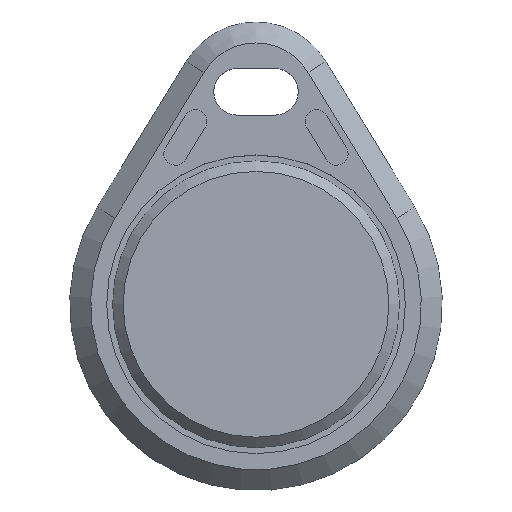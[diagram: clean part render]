
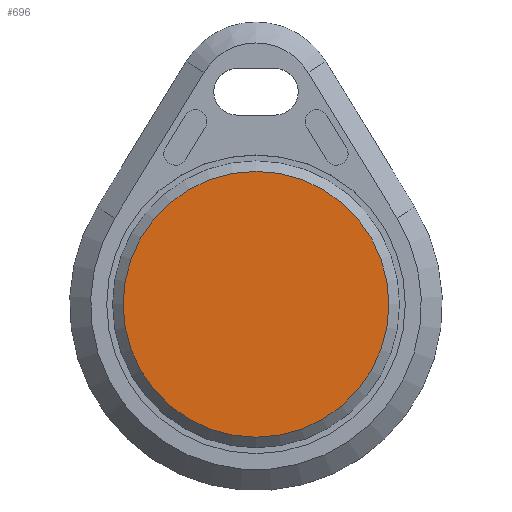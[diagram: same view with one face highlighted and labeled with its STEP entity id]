
A CAD part, top view. The second image highlights one B-rep face of the part: STEP entity #696.
In plain terms, the highlighted planar face has unit normal (0, 0, 1).
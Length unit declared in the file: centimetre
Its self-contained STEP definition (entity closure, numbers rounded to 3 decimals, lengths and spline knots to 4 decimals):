
#273=VERTEX_POINT('',#2454);
#354=EDGE_CURVE('',#273,#273,#1224,.T.);
#498=ORIENTED_EDGE('',*,*,#354,.F.);
#597=EDGE_LOOP('',(#498));
#651=FACE_BOUND('',#597,.T.);
#696=ADVANCED_FACE('',(#651),#1751,.T.);
#1224=CIRCLE('',#1603,1.1415);
#1593=AXIS2_PLACEMENT_3D('',#2423,#2007,$);
#1603=AXIS2_PLACEMENT_3D('',#2453,#2032,#2033);
#1751=PLANE('',#1593);
#2007=DIRECTION('',(0.,0.,1.));
#2032=DIRECTION('',(0.,0.,-1.));
#2033=DIRECTION('',(-1.142,0.,0.));
#2423=CARTESIAN_POINT('',(0.,0.3747,0.45));
#2453=CARTESIAN_POINT('',(0.,0.,0.45));
#2454=CARTESIAN_POINT('',(1.1415,0.,0.45));
